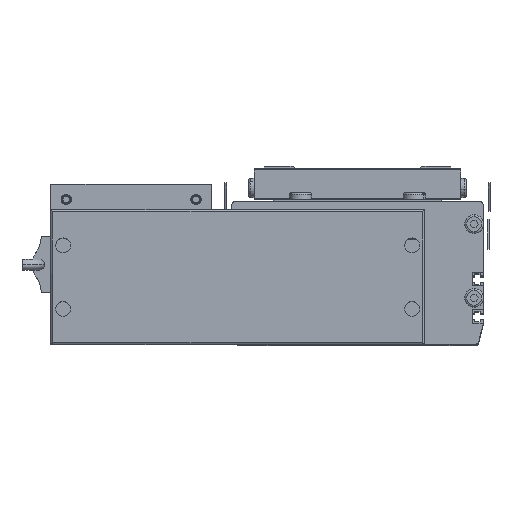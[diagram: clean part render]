
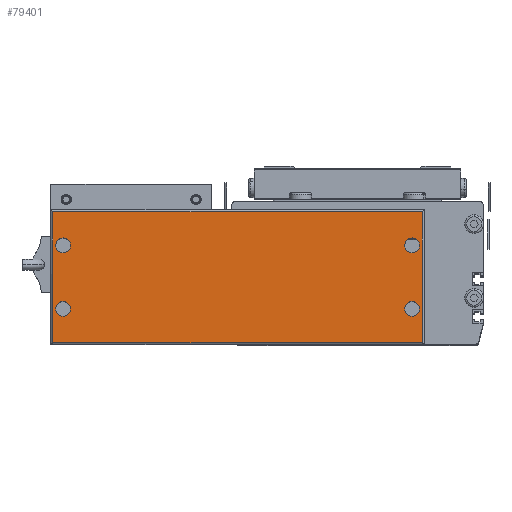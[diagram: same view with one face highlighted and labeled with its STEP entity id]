
A CAD part, top view. The second image highlights one B-rep face of the part: STEP entity #79401.
In plain terms, the highlighted planar face has unit normal (0, 0, 1).
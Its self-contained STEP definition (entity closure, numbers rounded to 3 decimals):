
#36629 = CARTESIAN_POINT ( 'NONE',  ( -153.75, 53., 44. ) ) ;
#36663 = CARTESIAN_POINT ( 'NONE',  ( -161.75, 53., 44. ) ) ;
#36678 = DIRECTION ( 'NONE',  ( 0., 0., 1. ) ) ;
#36709 = DIRECTION ( 'NONE',  ( 1., 0., 0. ) ) ;
#36716 = CARTESIAN_POINT ( 'NONE',  ( -157.75, 53., 44. ) ) ;
#36720 = AXIS2_PLACEMENT_3D ( 'NONE', #36716, #36678, #36709 ) ;
#36722 = CIRCLE ( 'NONE', #36720, 4. ) ;
#37196 = CARTESIAN_POINT ( 'NONE',  ( -153.75, 19., 44. ) ) ;
#37352 = DIRECTION ( 'NONE',  ( 0., 0., 1. ) ) ;
#37353 = CARTESIAN_POINT ( 'NONE',  ( 29.25, 53., 44. ) ) ;
#37354 = AXIS2_PLACEMENT_3D ( 'NONE', #37353, #37352, #37390 ) ;
#37379 = CARTESIAN_POINT ( 'NONE',  ( 25.25, 19., 44. ) ) ;
#37390 = DIRECTION ( 'NONE',  ( 1., 0., 0. ) ) ;
#37420 = CIRCLE ( 'NONE', #37354, 4. ) ;
#37521 = CARTESIAN_POINT ( 'NONE',  ( 25.25, 53., 44. ) ) ;
#37522 = AXIS2_PLACEMENT_3D ( 'NONE', #37528, #37557, #37556 ) ;
#37528 = CARTESIAN_POINT ( 'NONE',  ( -157.75, 19., 44. ) ) ;
#37556 = DIRECTION ( 'NONE',  ( 1., 0., 0. ) ) ;
#37557 = DIRECTION ( 'NONE',  ( 0., 0., 1. ) ) ;
#37575 = CARTESIAN_POINT ( 'NONE',  ( 33.25, 19., 44. ) ) ;
#37594 = CIRCLE ( 'NONE', #37522, 4. ) ;
#37710 = CIRCLE ( 'NONE', #37752, 4. ) ;
#37737 = DIRECTION ( 'NONE',  ( 1., 0., 0. ) ) ;
#37738 = DIRECTION ( 'NONE',  ( 0., 0., 1. ) ) ;
#37739 = CARTESIAN_POINT ( 'NONE',  ( 29.25, 19., 44. ) ) ;
#37750 = CARTESIAN_POINT ( 'NONE',  ( 33.25, 53., 44. ) ) ;
#37752 = AXIS2_PLACEMENT_3D ( 'NONE', #37739, #37738, #37737 ) ;
#37829 = CARTESIAN_POINT ( 'NONE',  ( -161.75, 19., 44. ) ) ;
#38827 = CARTESIAN_POINT ( 'NONE',  ( 29.25, 53., 44. ) ) ;
#38836 = CIRCLE ( 'NONE', #38911, 4. ) ;
#38908 = CARTESIAN_POINT ( 'NONE',  ( -163.25, 1., 44. ) ) ;
#38909 = DIRECTION ( 'NONE',  ( 1., 0., 0. ) ) ;
#38910 = DIRECTION ( 'NONE',  ( 0., 0., 1. ) ) ;
#38911 = AXIS2_PLACEMENT_3D ( 'NONE', #38827, #38910, #38909 ) ;
#38912 = DIRECTION ( 'NONE',  ( 1., 0., 0. ) ) ;
#38913 = VECTOR ( 'NONE', #38912, 1000. ) ;
#38914 = CARTESIAN_POINT ( 'NONE',  ( 35.75, 1., 44. ) ) ;
#38915 = LINE ( 'NONE', #38914, #38913 ) ;
#39102 = FACE_BOUND ( 'NONE', #79396, .T. ) ;
#39107 = FACE_OUTER_BOUND ( 'NONE', #79410, .T. ) ;
#39128 = PLANE ( 'NONE',  #39276 ) ;
#39145 = CARTESIAN_POINT ( 'NONE',  ( 34.75, 1., 44. ) ) ;
#39174 = DIRECTION ( 'NONE',  ( -1., 0., 0. ) ) ;
#39175 = VECTOR ( 'NONE', #39174, 1000. ) ;
#39176 = CARTESIAN_POINT ( 'NONE',  ( -164.25, 71., 44. ) ) ;
#39178 = LINE ( 'NONE', #39176, #39175 ) ;
#39179 = CARTESIAN_POINT ( 'NONE',  ( -163.25, 71., 44. ) ) ;
#39180 = DIRECTION ( 'NONE',  ( 1., 0., 0. ) ) ;
#39181 = DIRECTION ( 'NONE',  ( 0., 0., 1. ) ) ;
#39182 = CARTESIAN_POINT ( 'NONE',  ( 29.25, 19., 44. ) ) ;
#39209 = FACE_BOUND ( 'NONE', #79426, .T. ) ;
#39215 = CARTESIAN_POINT ( 'NONE',  ( 34.75, 71., 44. ) ) ;
#39221 = DIRECTION ( 'NONE',  ( 1., 0., 0. ) ) ;
#39222 = DIRECTION ( 'NONE',  ( 0., 0., 1. ) ) ;
#39223 = CARTESIAN_POINT ( 'NONE',  ( -157.75, 53., 44. ) ) ;
#39224 = AXIS2_PLACEMENT_3D ( 'NONE', #39223, #39222, #39221 ) ;
#39249 = AXIS2_PLACEMENT_3D ( 'NONE', #39182, #39181, #39180 ) ;
#39250 = AXIS2_PLACEMENT_3D ( 'NONE', #39273, #39263, #39262 ) ;
#39258 = FACE_BOUND ( 'NONE', #79245, .T. ) ;
#39260 = DIRECTION ( 'NONE',  ( 0., 1., 0. ) ) ;
#39261 = VECTOR ( 'NONE', #39260, 1000. ) ;
#39262 = DIRECTION ( 'NONE',  ( 1., 0., 0. ) ) ;
#39263 = DIRECTION ( 'NONE',  ( 0., 0., 1. ) ) ;
#39264 = CIRCLE ( 'NONE', #39249, 4. ) ;
#39265 = CARTESIAN_POINT ( 'NONE',  ( 34.75, 72., 44. ) ) ;
#39266 = LINE ( 'NONE', #39265, #39261 ) ;
#39267 = DIRECTION ( 'NONE',  ( 1., 0., 0. ) ) ;
#39268 = DIRECTION ( 'NONE',  ( 0., 0., 1. ) ) ;
#39269 = CARTESIAN_POINT ( 'NONE',  ( -164.25, 0., 44. ) ) ;
#39270 = CIRCLE ( 'NONE', #39250, 4. ) ;
#39272 = CIRCLE ( 'NONE', #39224, 4. ) ;
#39273 = CARTESIAN_POINT ( 'NONE',  ( -157.75, 19., 44. ) ) ;
#39274 = FACE_BOUND ( 'NONE', #79092, .T. ) ;
#39276 = AXIS2_PLACEMENT_3D ( 'NONE', #39269, #39268, #39267 ) ;
#39286 = DIRECTION ( 'NONE',  ( 0., -1., 0. ) ) ;
#39287 = VECTOR ( 'NONE', #39286, 1000. ) ;
#39288 = CARTESIAN_POINT ( 'NONE',  ( -163.25, 0., 44. ) ) ;
#39289 = LINE ( 'NONE', #39288, #39287 ) ;
#71738 = VERTEX_POINT ( 'NONE', #36629 ) ;
#71804 = EDGE_CURVE ( 'NONE', #71805, #71738, #36722, .T. ) ;
#71805 = VERTEX_POINT ( 'NONE', #36663 ) ;
#72419 = VERTEX_POINT ( 'NONE', #37196 ) ;
#72450 = EDGE_CURVE ( 'NONE', #72601, #72646, #37420, .T. ) ;
#72563 = VERTEX_POINT ( 'NONE', #37575 ) ;
#72599 = EDGE_CURVE ( 'NONE', #72742, #72419, #37594, .T. ) ;
#72601 = VERTEX_POINT ( 'NONE', #37521 ) ;
#72633 = VERTEX_POINT ( 'NONE', #37379 ) ;
#72646 = VERTEX_POINT ( 'NONE', #37750 ) ;
#72660 = EDGE_CURVE ( 'NONE', #72633, #72563, #37710, .T. ) ;
#72742 = VERTEX_POINT ( 'NONE', #37829 ) ;
#78866 = EDGE_CURVE ( 'NONE', #72646, #72601, #38836, .T. ) ;
#78870 = EDGE_CURVE ( 'NONE', #78875, #79241, #38915, .T. ) ;
#78875 = VERTEX_POINT ( 'NONE', #38908 ) ;
#79092 = EDGE_LOOP ( 'NONE', ( #79106, #79413 ) ) ;
#79096 = ORIENTED_EDGE ( 'NONE', *, *, #79432, .F. ) ;
#79106 = ORIENTED_EDGE ( 'NONE', *, *, #79226, .F. ) ;
#79226 = EDGE_CURVE ( 'NONE', #71738, #71805, #39272, .T. ) ;
#79241 = VERTEX_POINT ( 'NONE', #39145 ) ;
#79245 = EDGE_LOOP ( 'NONE', ( #79096, #79437 ) ) ;
#79250 = VERTEX_POINT ( 'NONE', #39215 ) ;
#79396 = EDGE_LOOP ( 'NONE', ( #79406, #79429 ) ) ;
#79401 = ADVANCED_FACE ( 'NONE', ( #39274, #39102, #39258, #39209, #39107 ), #39128, .T. ) ;
#79406 = ORIENTED_EDGE ( 'NONE', *, *, #79417, .F. ) ;
#79410 = EDGE_LOOP ( 'NONE', ( #79440, #79447, #79444, #79458 ) ) ;
#79413 = ORIENTED_EDGE ( 'NONE', *, *, #71804, .F. ) ;
#79417 = EDGE_CURVE ( 'NONE', #72419, #72742, #39270, .T. ) ;
#79420 = ORIENTED_EDGE ( 'NONE', *, *, #78866, .F. ) ;
#79426 = EDGE_LOOP ( 'NONE', ( #79420, #79442 ) ) ;
#79429 = ORIENTED_EDGE ( 'NONE', *, *, #72599, .F. ) ;
#79432 = EDGE_CURVE ( 'NONE', #72563, #72633, #39264, .T. ) ;
#79437 = ORIENTED_EDGE ( 'NONE', *, *, #72660, .F. ) ;
#79440 = ORIENTED_EDGE ( 'NONE', *, *, #78870, .T. ) ;
#79442 = ORIENTED_EDGE ( 'NONE', *, *, #72450, .F. ) ;
#79444 = ORIENTED_EDGE ( 'NONE', *, *, #79460, .T. ) ;
#79447 = ORIENTED_EDGE ( 'NONE', *, *, #79450, .T. ) ;
#79450 = EDGE_CURVE ( 'NONE', #79241, #79250, #39266, .T. ) ;
#79453 = VERTEX_POINT ( 'NONE', #39179 ) ;
#79458 = ORIENTED_EDGE ( 'NONE', *, *, #79469, .T. ) ;
#79460 = EDGE_CURVE ( 'NONE', #79250, #79453, #39178, .T. ) ;
#79469 = EDGE_CURVE ( 'NONE', #79453, #78875, #39289, .T. ) ;
